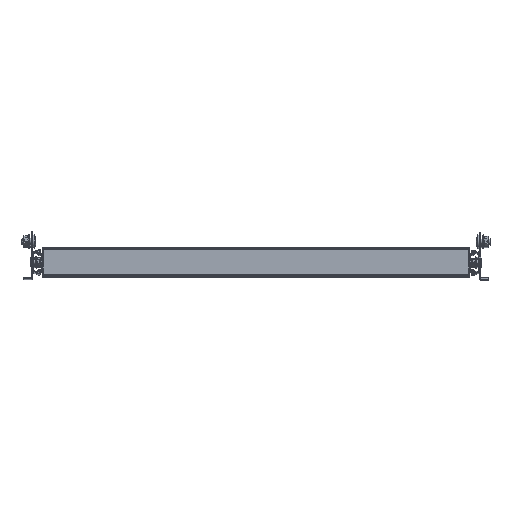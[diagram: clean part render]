
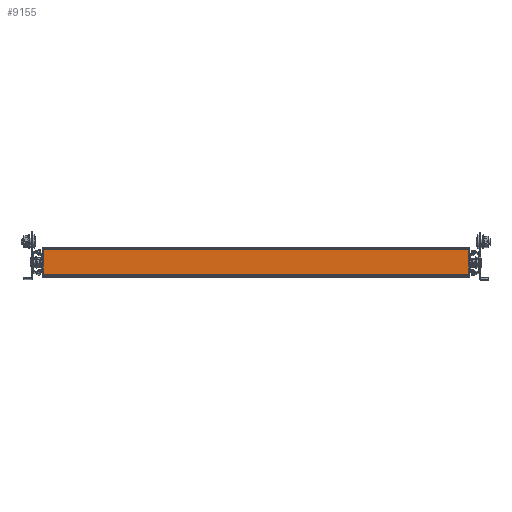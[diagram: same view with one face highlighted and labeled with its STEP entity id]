
A CAD part, top view. The second image highlights one B-rep face of the part: STEP entity #9155.
In plain terms, the highlighted planar face has unit normal (0, 0, 1) as drawn and (0, -1, 0) by its records, which use the part's own axes.
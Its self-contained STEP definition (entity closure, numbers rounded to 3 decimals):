
#761 = CARTESIAN_POINT ( 'NONE',  ( 237.5, -360., -28.25 ) ) ;
#1444 = LINE ( 'NONE', #3938, #10599 ) ;
#2262 = CARTESIAN_POINT ( 'NONE',  ( 237.5, -360., -0.75 ) ) ;
#2999 = ORIENTED_EDGE ( 'NONE', *, *, #10721, .F. ) ;
#3938 = CARTESIAN_POINT ( 'NONE',  ( -237.5, -360., -28.25 ) ) ;
#5323 = VERTEX_POINT ( 'NONE', #761 ) ;
#9098 = VECTOR ( 'NONE', #11931, 1000. ) ;
#9155 = ADVANCED_FACE ( 'NONE', ( #11814 ), #12850, .F. ) ;
#10599 = VECTOR ( 'NONE', #19095, 1000. ) ;
#10693 = EDGE_CURVE ( 'NONE', #15501, #5323, #1444, .T. ) ;
#10721 = EDGE_CURVE ( 'NONE', #11744, #11343, #22223, .T. ) ;
#10757 = AXIS2_PLACEMENT_3D ( 'NONE', #18855, #14868, #14696 ) ;
#10834 = EDGE_CURVE ( 'NONE', #11744, #15501, #19219, .T. ) ;
#11343 = VERTEX_POINT ( 'NONE', #2262 ) ;
#11744 = VERTEX_POINT ( 'NONE', #16731 ) ;
#11814 = FACE_OUTER_BOUND ( 'NONE', #21220, .T. ) ;
#11931 = DIRECTION ( 'NONE',  ( 0., 0., -1. ) ) ;
#12347 = CARTESIAN_POINT ( 'NONE',  ( 237.5, -360., 0. ) ) ;
#12782 = ORIENTED_EDGE ( 'NONE', *, *, #10693, .T. ) ;
#12850 = PLANE ( 'NONE',  #10757 ) ;
#14696 = DIRECTION ( 'NONE',  ( 0., 0., 1. ) ) ;
#14868 = DIRECTION ( 'NONE',  ( 0., 1., 0. ) ) ;
#15501 = VERTEX_POINT ( 'NONE', #22550 ) ;
#16731 = CARTESIAN_POINT ( 'NONE',  ( -237.5, -360., -0.75 ) ) ;
#17137 = VECTOR ( 'NONE', #21523, 1000. ) ;
#17385 = ORIENTED_EDGE ( 'NONE', *, *, #23553, .T. ) ;
#17591 = CARTESIAN_POINT ( 'NONE',  ( 237.5, -360., -0.75 ) ) ;
#18020 = DIRECTION ( 'NONE',  ( 0., 0., 1. ) ) ;
#18541 = ORIENTED_EDGE ( 'NONE', *, *, #10834, .T. ) ;
#18748 = VECTOR ( 'NONE', #18020, 1000. ) ;
#18855 = CARTESIAN_POINT ( 'NONE',  ( 237.5, -360., 0. ) ) ;
#19095 = DIRECTION ( 'NONE',  ( 1., 0., 0. ) ) ;
#19219 = LINE ( 'NONE', #23339, #9098 ) ;
#19360 = LINE ( 'NONE', #12347, #18748 ) ;
#21220 = EDGE_LOOP ( 'NONE', ( #12782, #17385, #2999, #18541 ) ) ;
#21523 = DIRECTION ( 'NONE',  ( 1., 0., 0. ) ) ;
#22223 = LINE ( 'NONE', #17591, #17137 ) ;
#22550 = CARTESIAN_POINT ( 'NONE',  ( -237.5, -360., -28.25 ) ) ;
#23339 = CARTESIAN_POINT ( 'NONE',  ( -237.5, -360., 0. ) ) ;
#23553 = EDGE_CURVE ( 'NONE', #5323, #11343, #19360, .T. ) ;
